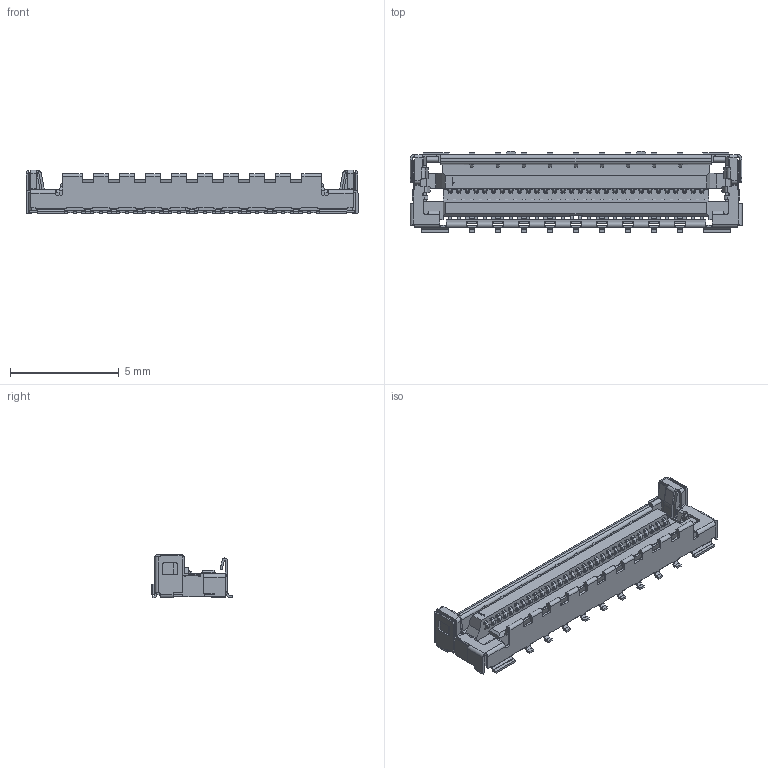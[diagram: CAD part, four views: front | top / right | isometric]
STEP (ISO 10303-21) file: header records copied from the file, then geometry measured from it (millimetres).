
FILE_DESCRIPTION(/* description */ ('Unknown'),/* implementation_level */ '2;1');
FILE_NAME(/* name */ 'S-51495-030xx-002',/* time_stamp */ '2023-07-26T17:50:58+08:00',/* author */ ('Unknown'),/* organization */ ('Unknown'),/* preprocessor_version */ 'ST-DEVELOPER v16.7',/* originating_system */ 'DEX',/* authorisation */ $);
FILE_SCHEMA (('CONFIG_CONTROL_DESIGN'));
Products named in the file (3): S-51495-030xx-002; foot print
Assembly tree (2 placements, depth 2):
  S-51495-030xx-002
    S-51495-030xx-002
    foot print
Bounding box: 15.3 x 3.77 x 2 mm (x, y, z)
Volume: 38.2 mm3; surface area: 313.2 mm2
Topology: 1 solids, 1 shells, 2062 faces, 6168 edges, 4342 vertices
Faces by surface type: plane 1456, cylinder 486, bspline 120
Entity records: 72761 total; most frequent: CARTESIAN_POINT 17446, ORIENTED_EDGE 11888, DIRECTION 10202, EDGE_CURVE 5944, LINE 4812, VECTOR 4812, VERTEX_POINT 3894, AXIS2_PLACEMENT_3D 2695
